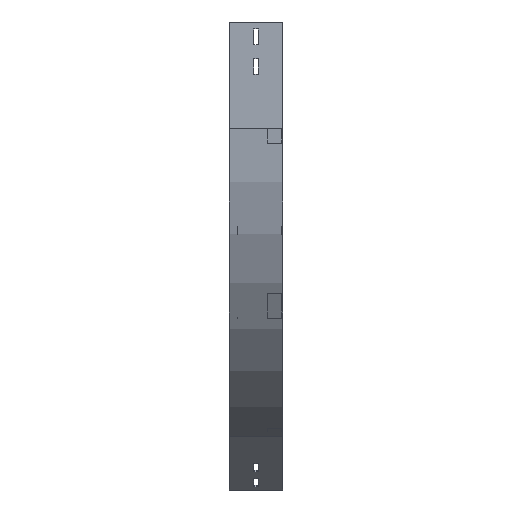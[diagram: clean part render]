
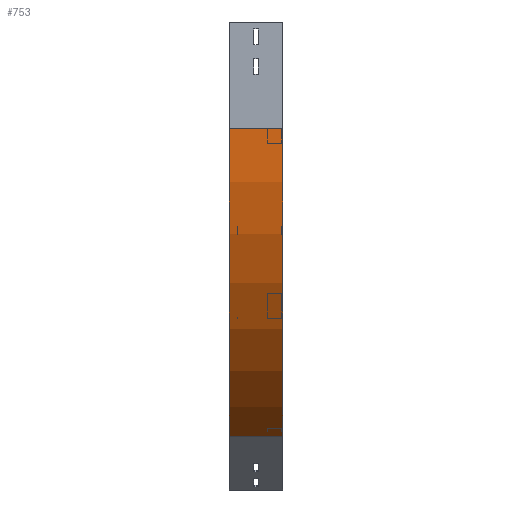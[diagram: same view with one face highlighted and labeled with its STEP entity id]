
A CAD part, left-side view. The second image highlights one B-rep face of the part: STEP entity #753.
In plain terms, the highlighted cylindrical face has radius 500 mm (diameter 1000 mm), a partial arc.
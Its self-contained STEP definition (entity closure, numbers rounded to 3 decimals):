
#29 = EDGE_CURVE ( 'NONE', #2977, #2414, #1984, .T. ) ;
#197 = EDGE_CURVE ( 'NONE', #919, #2414, #422, .T. ) ;
#398 = CIRCLE ( 'NONE', #514, 500. ) ;
#422 = LINE ( 'NONE', #460, #821 ) ;
#460 = CARTESIAN_POINT ( 'NONE',  ( 250., 0., -583.013 ) ) ;
#514 = AXIS2_PLACEMENT_3D ( 'NONE', #3494, #3183, #2849 ) ;
#531 = CARTESIAN_POINT ( 'NONE',  ( 500., 0., -150. ) ) ;
#743 = EDGE_CURVE ( 'NONE', #3747, #919, #398, .T. ) ;
#753 = ADVANCED_FACE ( 'NONE', ( #1380 ), #2552, .T. ) ;
#821 = VECTOR ( 'NONE', #2222, 1000. ) ;
#919 = VERTEX_POINT ( 'NONE', #2003 ) ;
#1096 = ORIENTED_EDGE ( 'NONE', *, *, #29, .F. ) ;
#1200 = ORIENTED_EDGE ( 'NONE', *, *, #743, .T. ) ;
#1380 = FACE_OUTER_BOUND ( 'NONE', #2711, .T. ) ;
#1427 = ORIENTED_EDGE ( 'NONE', *, *, #197, .T. ) ;
#1485 = CARTESIAN_POINT ( 'NONE',  ( 500., 0., -150. ) ) ;
#1702 = CARTESIAN_POINT ( 'NONE',  ( 0., 0., -150. ) ) ;
#1971 = DIRECTION ( 'NONE',  ( 0., -1., 0. ) ) ;
#1984 = CIRCLE ( 'NONE', #3415, 500. ) ;
#2003 = CARTESIAN_POINT ( 'NONE',  ( 250., 75., -583.013 ) ) ;
#2037 = DIRECTION ( 'NONE',  ( -1., 0., 0. ) ) ;
#2149 = ORIENTED_EDGE ( 'NONE', *, *, #2936, .F. ) ;
#2222 = DIRECTION ( 'NONE',  ( 0., -1., 0. ) ) ;
#2414 = VERTEX_POINT ( 'NONE', #3334 ) ;
#2535 = LINE ( 'NONE', #2851, #3846 ) ;
#2552 = CYLINDRICAL_SURFACE ( 'NONE', #3425, 500. ) ;
#2661 = DIRECTION ( 'NONE',  ( 0., -1., 0. ) ) ;
#2711 = EDGE_LOOP ( 'NONE', ( #1096, #2149, #1200, #1427 ) ) ;
#2849 = DIRECTION ( 'NONE',  ( -1., 0., 0. ) ) ;
#2851 = CARTESIAN_POINT ( 'NONE',  ( 0., 0., -150. ) ) ;
#2936 = EDGE_CURVE ( 'NONE', #3747, #2977, #2535, .T. ) ;
#2977 = VERTEX_POINT ( 'NONE', #1702 ) ;
#3183 = DIRECTION ( 'NONE',  ( 0., -1., 0. ) ) ;
#3201 = DIRECTION ( 'NONE',  ( 0., 0., -1. ) ) ;
#3334 = CARTESIAN_POINT ( 'NONE',  ( 250., 0., -583.013 ) ) ;
#3415 = AXIS2_PLACEMENT_3D ( 'NONE', #1485, #2661, #2037 ) ;
#3425 = AXIS2_PLACEMENT_3D ( 'NONE', #531, #3751, #3201 ) ;
#3434 = CARTESIAN_POINT ( 'NONE',  ( 0., 75., -150. ) ) ;
#3494 = CARTESIAN_POINT ( 'NONE',  ( 500., 75., -150. ) ) ;
#3747 = VERTEX_POINT ( 'NONE', #3434 ) ;
#3751 = DIRECTION ( 'NONE',  ( 0., -1., 0. ) ) ;
#3846 = VECTOR ( 'NONE', #1971, 1000. ) ;
